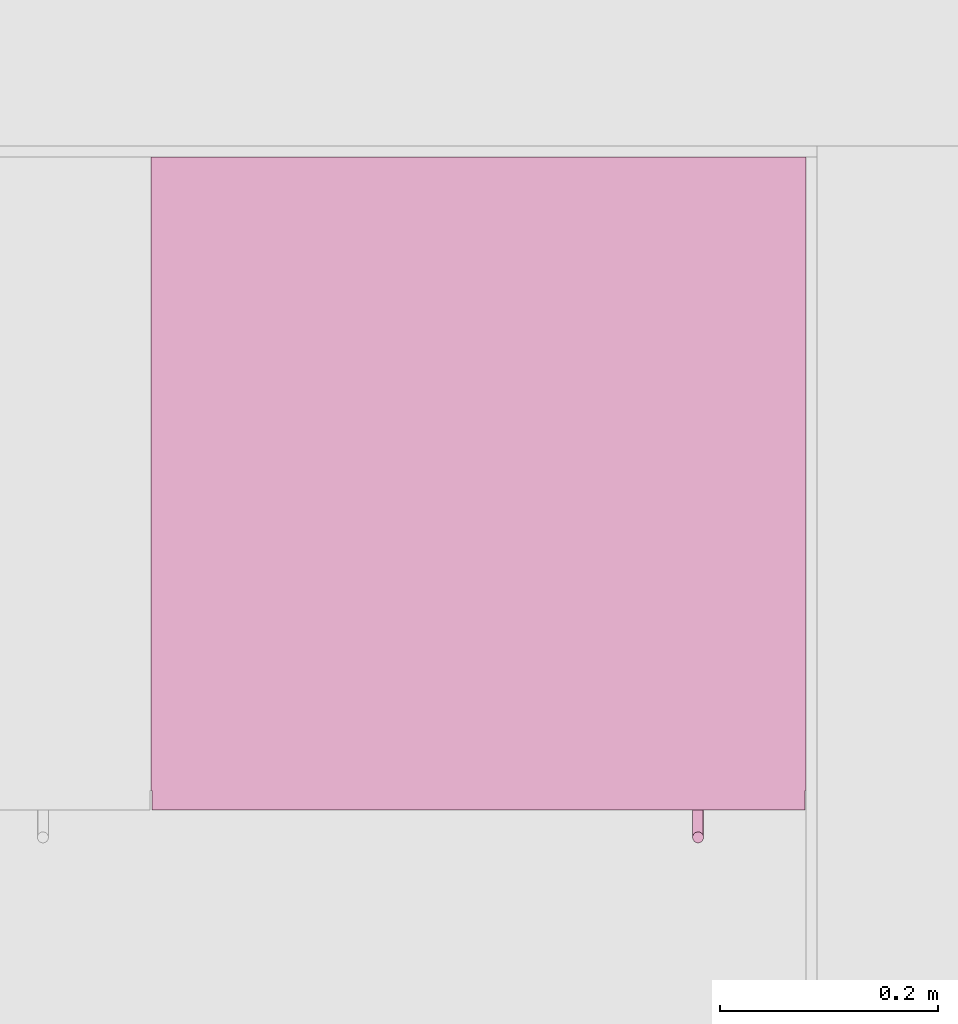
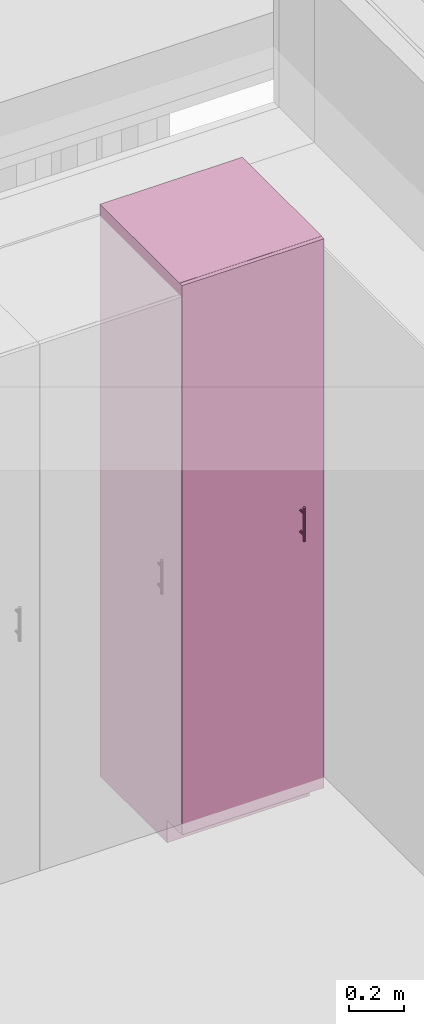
# One storey, part 31 of 34: 1 furniture element.
"""IFC4 building model written with IfcOpenShell, lengths in millimetres."""

from ifc_helpers import new_model, entity, si_unit, converted_unit, derived_unit, direction, frame, origin_with_axes, place, context, subcontext, project, spatial, polygons, source, transform, mapped, type_object, element, save


model = new_model("IFC4")

# Units and contexts
model_context = context("Model", 3, precision=0.01, world=origin_with_axes(), true_north=direction((0.0, 1.0)))
body_context = subcontext(model_context, "Body", "Model", "MODEL_VIEW")
ifc_project = project(units=[si_unit("LENGTHUNIT", "METRE", prefix="MILLI"), si_unit("AREAUNIT", "SQUARE_METRE"), si_unit("VOLUMEUNIT", "CUBIC_METRE"), converted_unit("PLANEANGLEUNIT", "DEGREE", entity("IfcPlaneAngleMeasure", 0.0174532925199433), si_unit("PLANEANGLEUNIT", "RADIAN"), dimensions=[0, 0, 0, 0, 0, 0, 0]), converted_unit("TIMEUNIT", "Year", entity("IfcTimeMeasure", 31557600.0), si_unit("TIMEUNIT", "SECOND"), dimensions=[0, 0, 1, 0, 0, 0, 0]), si_unit("MASSUNIT", "GRAM", prefix="KILO"), si_unit("THERMODYNAMICTEMPERATUREUNIT", "DEGREE_CELSIUS"), si_unit("LUMINOUSINTENSITYUNIT", "LUMEN"), si_unit("ENERGYUNIT", "JOULE", prefix="MEGA"), derived_unit("THERMALCONDUCTANCEUNIT", [(si_unit("POWERUNIT", "WATT"), 1), (si_unit("LENGTHUNIT", "METRE"), -1), (si_unit("THERMODYNAMICTEMPERATUREUNIT", "KELVIN"), -1)]), derived_unit("SPECIFICHEATCAPACITYUNIT", [(si_unit("ENERGYUNIT", "JOULE"), 1), (si_unit("MASSUNIT", "GRAM", prefix="KILO"), -1), (si_unit("THERMODYNAMICTEMPERATUREUNIT", "KELVIN"), -1)]), derived_unit("MASSDENSITYUNIT", [(si_unit("MASSUNIT", "GRAM", prefix="KILO"), 1), (si_unit("VOLUMEUNIT", "CUBIC_METRE"), -1)])], contexts=[model_context])

# Site, building, storey
site_placement = place(None, origin_with_axes())
site = spatial("IfcSite", under=ifc_project, at=site_placement, Name="Gelände", CompositionType="ELEMENT")
building_placement = place(site_placement, origin_with_axes())
building = spatial("IfcBuilding", under=site, at=building_placement, Name="Gebäude", CompositionType="ELEMENT")
storey_placement = place(building_placement, frame((0.0, 0.0, 5799.999999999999), z_axis=(0.0, 0.0, 1.0), x_axis=(1.0, 0.0, 0.0)))
storey = spatial("IfcBuildingStorey", under=building, at=storey_placement, Name="2.OG", CompositionType="ELEMENT", Elevation=5800.0)

# Furniture
furniture_type = type_object("IfcFurnitureType", Name="Stehender Schrank Block 27", AssemblyPlace="NOTDEFINED", PredefinedType="NOTDEFINED")
shared_shape = source(origin_with_axes(), body_context, "Body", "Tessellation", [
    polygons([(501.8682408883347, -597.9999999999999, 1377.799012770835), (502.7101007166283, -597.9999999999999, 1377.573437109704), (503.4999999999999, -597.9999999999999, 1377.205101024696), (504.2139380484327, -597.9999999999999, 1376.705196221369), (504.8302222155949, -597.9999999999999, 1376.088912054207), (505.3301270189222, -597.9999999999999, 1375.374974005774), (505.6984631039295, -597.9999999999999, 1374.585074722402), (505.924038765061, -597.9999999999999, 1373.743214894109), (506.0, -597.9999999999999, 1372.874974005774), (505.924038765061, -597.9999999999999, 1372.00673311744), (505.6984631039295, -597.9999999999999, 1371.164873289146), (505.3301270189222, -597.9999999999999, 1370.374974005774), (504.8302222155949, -597.9999999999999, 1369.661035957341), (504.2139380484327, -597.9999999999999, 1369.044751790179), (503.4999999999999, -597.9999999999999, 1368.544846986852), (502.7101007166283, -597.9999999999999, 1368.176510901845), (501.8682408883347, -597.9999999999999, 1367.950935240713), (501.0, -597.9999999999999, 1367.874974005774), (500.1317591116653, -597.9999999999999, 1367.950935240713), (499.2898992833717, -597.9999999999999, 1368.176510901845), (498.5, -597.9999999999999, 1368.544846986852), (497.7860619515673, -597.9999999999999, 1369.044751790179), (497.1697777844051, -597.9999999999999, 1369.661035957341), (496.6698729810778, -597.9999999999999, 1370.374974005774), (496.3015368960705, -597.9999999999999, 1371.164873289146), (496.075961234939, -597.9999999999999, 1372.00673311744), (496.0, -597.9999999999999, 1372.874974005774), (496.075961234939, -597.9999999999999, 1373.743214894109), (496.3015368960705, -597.9999999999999, 1374.585074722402), (496.6698729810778, -597.9999999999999, 1375.374974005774), (497.1697777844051, -597.9999999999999, 1376.088912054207), (497.7860619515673, -597.9999999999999, 1376.705196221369), (498.5, -597.9999999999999, 1377.205101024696), (499.2898992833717, -597.9999999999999, 1377.573437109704), (500.1317591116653, -597.9999999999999, 1377.799012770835), (501.0, -597.9999999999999, 1377.874974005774), (501.8682408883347, -622.9999999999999, 1377.799012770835), (502.7101007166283, -622.9999999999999, 1377.573437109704), (503.4999999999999, -622.9999999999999, 1377.205101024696), (504.2139380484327, -622.9999999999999, 1376.705196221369), (504.8302222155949, -622.9999999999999, 1376.088912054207), (505.3301270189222, -622.9999999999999, 1375.374974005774), (505.6984631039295, -622.9999999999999, 1374.585074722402), (505.924038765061, -622.9999999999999, 1373.743214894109), (506.0, -622.9999999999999, 1372.874974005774), (505.924038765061, -622.9999999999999, 1372.00673311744), (505.6984631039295, -622.9999999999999, 1371.164873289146), (505.3301270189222, -622.9999999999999, 1370.374974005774), (504.8302222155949, -622.9999999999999, 1369.661035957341), (504.2139380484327, -622.9999999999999, 1369.044751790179), (503.4999999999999, -622.9999999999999, 1368.544846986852), (502.7101007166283, -622.9999999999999, 1368.176510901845), (501.8682408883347, -622.9999999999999, 1367.950935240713), (501.0, -622.9999999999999, 1367.874974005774), (500.1317591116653, -622.9999999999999, 1367.950935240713), (499.2898992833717, -622.9999999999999, 1368.176510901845), (498.5, -622.9999999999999, 1368.544846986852), (497.7860619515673, -622.9999999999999, 1369.044751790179), (497.1697777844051, -622.9999999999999, 1369.661035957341), (496.6698729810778, -622.9999999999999, 1370.374974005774), (496.3015368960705, -622.9999999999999, 1371.164873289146), (496.075961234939, -622.9999999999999, 1372.00673311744), (496.0, -622.9999999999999, 1372.874974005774), (496.075961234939, -622.9999999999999, 1373.743214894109), (496.3015368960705, -622.9999999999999, 1374.585074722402), (496.6698729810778, -622.9999999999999, 1375.374974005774), (497.1697777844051, -622.9999999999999, 1376.088912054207), (497.7860619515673, -622.9999999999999, 1376.705196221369), (498.5, -622.9999999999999, 1377.205101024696), (499.2898992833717, -622.9999999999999, 1377.573437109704), (500.1317591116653, -622.9999999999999, 1377.799012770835), (501.0, -622.9999999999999, 1377.874974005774)], [[[1, 2, 3, 4, 5, 6, 7, 8, 9, 10, 11, 12, 13, 14, 15, 16, 17, 18, 19, 20, 21, 22, 23, 24, 25, 26, 27, 28, 29, 30, 31, 32, 33, 34, 35, 36]], [[2, 1, 37, 38]], [[3, 2, 38, 39]], [[4, 3, 39, 40]], [[5, 4, 40, 41]], [[6, 5, 41, 42]], [[7, 6, 42, 43]], [[8, 7, 43, 44]], [[9, 8, 44, 45]], [[10, 9, 45, 46]], [[11, 10, 46, 47]], [[12, 11, 47, 48]], [[13, 12, 48, 49]], [[14, 13, 49, 50]], [[15, 14, 50, 51]], [[16, 15, 51, 52]], [[17, 16, 52, 53]], [[18, 17, 53, 54]], [[19, 18, 54, 55]], [[20, 19, 55, 56]], [[21, 20, 56, 57]], [[22, 21, 57, 58]], [[23, 22, 58, 59]], [[24, 23, 59, 60]], [[25, 24, 60, 61]], [[26, 25, 61, 62]], [[27, 26, 62, 63]], [[28, 27, 63, 64]], [[29, 28, 64, 65]], [[30, 29, 65, 66]], [[31, 30, 66, 67]], [[32, 31, 67, 68]], [[33, 32, 68, 69]], [[34, 33, 69, 70]], [[35, 34, 70, 71]], [[36, 35, 71, 72]], [[1, 36, 72, 37]], [[37, 72, 71, 70, 69, 68, 67, 66, 65, 64, 63, 62, 61, 60, 59, 58, 57, 56, 55, 54, 53, 52, 51, 50, 49, 48, 47, 46, 45, 44, 43, 42, 41, 40, 39, 38]]], closed=True),
    polygons([(501.8682408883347, -597.9999999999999, 1274.200935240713), (501.0, -597.9999999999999, 1274.124974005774), (500.1317591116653, -597.9999999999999, 1274.200935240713), (499.2898992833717, -597.9999999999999, 1274.426510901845), (498.5, -597.9999999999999, 1274.794846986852), (497.7860619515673, -597.9999999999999, 1275.294751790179), (497.1697777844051, -597.9999999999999, 1275.911035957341), (496.6698729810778, -597.9999999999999, 1276.624974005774), (496.3015368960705, -597.9999999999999, 1277.414873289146), (496.075961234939, -597.9999999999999, 1278.25673311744), (496.0, -597.9999999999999, 1279.124974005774), (496.075961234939, -597.9999999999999, 1279.993214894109), (496.3015368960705, -597.9999999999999, 1280.835074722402), (496.6698729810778, -597.9999999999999, 1281.624974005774), (497.1697777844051, -597.9999999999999, 1282.338912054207), (497.7860619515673, -597.9999999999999, 1282.955196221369), (498.5, -597.9999999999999, 1283.455101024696), (499.2898992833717, -597.9999999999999, 1283.823437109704), (500.1317591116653, -597.9999999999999, 1284.049012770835), (501.0, -597.9999999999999, 1284.124974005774), (501.8682408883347, -597.9999999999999, 1284.049012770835), (502.7101007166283, -597.9999999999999, 1283.823437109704), (503.4999999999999, -597.9999999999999, 1283.455101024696), (504.2139380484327, -597.9999999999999, 1282.955196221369), (504.8302222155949, -597.9999999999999, 1282.338912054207), (505.3301270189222, -597.9999999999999, 1281.624974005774), (505.6984631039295, -597.9999999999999, 1280.835074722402), (505.924038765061, -597.9999999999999, 1279.993214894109), (506.0, -597.9999999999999, 1279.124974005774), (505.924038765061, -597.9999999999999, 1278.25673311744), (505.6984631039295, -597.9999999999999, 1277.414873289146), (505.3301270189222, -597.9999999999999, 1276.624974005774), (504.8302222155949, -597.9999999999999, 1275.911035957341), (504.2139380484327, -597.9999999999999, 1275.294751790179), (503.4999999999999, -597.9999999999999, 1274.794846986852), (502.7101007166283, -597.9999999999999, 1274.426510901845), (501.8682408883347, -622.9999999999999, 1274.200935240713), (501.0, -622.9999999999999, 1274.124974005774), (500.1317591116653, -622.9999999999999, 1274.200935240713), (499.2898992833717, -622.9999999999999, 1274.426510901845), (498.5, -622.9999999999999, 1274.794846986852), (497.7860619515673, -622.9999999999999, 1275.294751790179), (497.1697777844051, -622.9999999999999, 1275.911035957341), (496.6698729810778, -622.9999999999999, 1276.624974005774), (496.3015368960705, -622.9999999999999, 1277.414873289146), (496.075961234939, -622.9999999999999, 1278.25673311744), (496.0, -622.9999999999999, 1279.124974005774), (496.075961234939, -622.9999999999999, 1279.993214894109), (496.3015368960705, -622.9999999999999, 1280.835074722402), (496.6698729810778, -622.9999999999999, 1281.624974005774), (497.1697777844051, -622.9999999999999, 1282.338912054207), (497.7860619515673, -622.9999999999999, 1282.955196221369), (498.5, -622.9999999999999, 1283.455101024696), (499.2898992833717, -622.9999999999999, 1283.823437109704), (500.1317591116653, -622.9999999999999, 1284.049012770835), (501.0, -622.9999999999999, 1284.124974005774), (501.8682408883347, -622.9999999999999, 1284.049012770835), (502.7101007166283, -622.9999999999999, 1283.823437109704), (503.4999999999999, -622.9999999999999, 1283.455101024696), (504.2139380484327, -622.9999999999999, 1282.955196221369), (504.8302222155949, -622.9999999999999, 1282.338912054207), (505.3301270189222, -622.9999999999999, 1281.624974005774), (505.6984631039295, -622.9999999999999, 1280.835074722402), (505.924038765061, -622.9999999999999, 1279.993214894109), (506.0, -622.9999999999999, 1279.124974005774), (505.924038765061, -622.9999999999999, 1278.25673311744), (505.6984631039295, -622.9999999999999, 1277.414873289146), (505.3301270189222, -622.9999999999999, 1276.624974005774), (504.8302222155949, -622.9999999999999, 1275.911035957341), (504.2139380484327, -622.9999999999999, 1275.294751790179), (503.4999999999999, -622.9999999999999, 1274.794846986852), (502.7101007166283, -622.9999999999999, 1274.426510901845)], [[[1, 2, 3, 4, 5, 6, 7, 8, 9, 10, 11, 12, 13, 14, 15, 16, 17, 18, 19, 20, 21, 22, 23, 24, 25, 26, 27, 28, 29, 30, 31, 32, 33, 34, 35, 36]], [[1, 37, 38, 2]], [[2, 38, 39, 3]], [[3, 39, 40, 4]], [[4, 40, 41, 5]], [[5, 41, 42, 6]], [[6, 42, 43, 7]], [[7, 43, 44, 8]], [[8, 44, 45, 9]], [[9, 45, 46, 10]], [[10, 46, 47, 11]], [[11, 47, 48, 12]], [[12, 48, 49, 13]], [[13, 49, 50, 14]], [[14, 50, 51, 15]], [[15, 51, 52, 16]], [[16, 52, 53, 17]], [[17, 53, 54, 18]], [[18, 54, 55, 19]], [[19, 55, 56, 20]], [[20, 56, 57, 21]], [[21, 57, 58, 22]], [[22, 58, 59, 23]], [[23, 59, 60, 24]], [[24, 60, 61, 25]], [[25, 61, 62, 26]], [[26, 62, 63, 27]], [[27, 63, 64, 28]], [[28, 64, 65, 29]], [[29, 65, 66, 30]], [[30, 66, 67, 31]], [[31, 67, 68, 32]], [[32, 68, 69, 33]], [[33, 69, 70, 34]], [[34, 70, 71, 35]], [[35, 71, 72, 36]], [[36, 72, 37, 1]], [[37, 72, 71, 70, 69, 68, 67, 66, 65, 64, 63, 62, 61, 60, 59, 58, 57, 56, 55, 54, 53, 52, 51, 50, 49, 48, 47, 46, 45, 44, 43, 42, 41, 40, 39, 38]]], closed=True),
    polygons([(501.8682408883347, -618.0759612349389, 1250.999974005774), (502.7101007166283, -618.3015368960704, 1250.999974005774), (503.4999999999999, -618.6698729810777, 1250.999974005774), (504.2139380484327, -619.1697777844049, 1250.999974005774), (504.8302222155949, -619.7860619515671, 1250.999974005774), (505.3301270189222, -620.4999999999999, 1250.999974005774), (505.6984631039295, -621.2898992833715, 1250.999974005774), (505.924038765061, -622.1317591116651, 1250.999974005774), (506.0, -622.9999999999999, 1250.999974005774), (505.924038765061, -623.8682408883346, 1250.999974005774), (505.6984631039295, -624.7101007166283, 1250.999974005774), (505.3301270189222, -625.4999999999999, 1250.999974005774), (504.8302222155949, -626.2139380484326, 1250.999974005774), (504.2139380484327, -626.8302222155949, 1250.999974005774), (503.4999999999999, -627.3301270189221, 1250.999974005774), (502.7101007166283, -627.6984631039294, 1250.999974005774), (501.8682408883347, -627.924038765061, 1250.999974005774), (501.0, -627.9999999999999, 1250.999974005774), (500.1317591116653, -627.924038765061, 1250.999974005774), (499.2898992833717, -627.6984631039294, 1250.999974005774), (498.5, -627.3301270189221, 1250.999974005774), (497.7860619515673, -626.8302222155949, 1250.999974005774), (497.1697777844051, -626.2139380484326, 1250.999974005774), (496.6698729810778, -625.4999999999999, 1250.999974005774), (496.3015368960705, -624.7101007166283, 1250.999974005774), (496.075961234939, -623.8682408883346, 1250.999974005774), (496.0, -622.9999999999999, 1250.999974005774), (496.075961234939, -622.1317591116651, 1250.999974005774), (496.3015368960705, -621.2898992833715, 1250.999974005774), (496.6698729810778, -620.4999999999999, 1250.999974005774), (497.1697777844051, -619.7860619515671, 1250.999974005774), (497.7860619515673, -619.1697777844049, 1250.999974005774), (498.5, -618.6698729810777, 1250.999974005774), (499.2898992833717, -618.3015368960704, 1250.999974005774), (500.1317591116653, -618.0759612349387, 1250.999974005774), (501.0, -617.9999999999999, 1250.999974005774), (501.8682408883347, -618.0759612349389, 1400.999974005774), (502.7101007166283, -618.3015368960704, 1400.999974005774), (503.5000000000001, -618.6698729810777, 1400.999974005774), (504.2139380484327, -619.1697777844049, 1400.999974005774), (504.8302222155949, -619.7860619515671, 1400.999974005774), (505.3301270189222, -620.4999999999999, 1400.999974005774), (505.6984631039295, -621.2898992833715, 1400.999974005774), (505.9240387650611, -622.1317591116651, 1400.999974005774), (506.0, -622.9999999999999, 1400.999974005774), (505.9240387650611, -623.8682408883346, 1400.999974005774), (505.6984631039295, -624.7101007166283, 1400.999974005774), (505.3301270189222, -625.4999999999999, 1400.999974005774), (504.8302222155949, -626.2139380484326, 1400.999974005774), (504.2139380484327, -626.8302222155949, 1400.999974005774), (503.5000000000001, -627.3301270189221, 1400.999974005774), (502.7101007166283, -627.6984631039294, 1400.999974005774), (501.8682408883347, -627.924038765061, 1400.999974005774), (501.0, -627.9999999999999, 1400.999974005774), (500.1317591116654, -627.924038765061, 1400.999974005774), (499.2898992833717, -627.6984631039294, 1400.999974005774), (498.5, -627.3301270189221, 1400.999974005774), (497.7860619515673, -626.8302222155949, 1400.999974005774), (497.1697777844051, -626.2139380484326, 1400.999974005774), (496.6698729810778, -625.4999999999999, 1400.999974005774), (496.3015368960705, -624.7101007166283, 1400.999974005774), (496.075961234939, -623.8682408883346, 1400.999974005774), (496.0, -622.9999999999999, 1400.999974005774), (496.075961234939, -622.1317591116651, 1400.999974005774), (496.3015368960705, -621.2898992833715, 1400.999974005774), (496.6698729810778, -620.4999999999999, 1400.999974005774), (497.1697777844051, -619.7860619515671, 1400.999974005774), (497.7860619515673, -619.1697777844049, 1400.999974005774), (498.5, -618.6698729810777, 1400.999974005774), (499.2898992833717, -618.3015368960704, 1400.999974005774), (500.1317591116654, -618.0759612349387, 1400.999974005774), (501.0, -617.9999999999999, 1400.999974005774)], [[[1, 2, 3, 4, 5, 6, 7, 8, 9, 10, 11, 12, 13, 14, 15, 16, 17, 18, 19, 20, 21, 22, 23, 24, 25, 26, 27, 28, 29, 30, 31, 32, 33, 34, 35, 36]], [[2, 1, 37, 38]], [[3, 2, 38, 39]], [[4, 3, 39, 40]], [[5, 4, 40, 41]], [[6, 5, 41, 42]], [[7, 6, 42, 43]], [[8, 7, 43, 44]], [[9, 8, 44, 45]], [[10, 9, 45, 46]], [[11, 10, 46, 47]], [[12, 11, 47, 48]], [[13, 12, 48, 49]], [[14, 13, 49, 50]], [[15, 14, 50, 51]], [[16, 15, 51, 52]], [[17, 16, 52, 53]], [[18, 17, 53, 54]], [[19, 18, 54, 55]], [[20, 19, 55, 56]], [[21, 20, 56, 57]], [[22, 21, 57, 58]], [[23, 22, 58, 59]], [[24, 23, 59, 60]], [[25, 24, 60, 61]], [[26, 25, 61, 62]], [[27, 26, 62, 63]], [[28, 27, 63, 64]], [[29, 28, 64, 65]], [[30, 29, 65, 66]], [[31, 30, 66, 67]], [[32, 31, 67, 68]], [[33, 32, 68, 69]], [[34, 33, 69, 70]], [[35, 34, 70, 71]], [[36, 35, 71, 72]], [[1, 36, 72, 37]], [[37, 72, 71, 70, 69, 68, 67, 66, 65, 64, 63, 62, 61, 60, 59, 58, 57, 56, 55, 54, 53, 52, 51, 50, 49, 48, 47, 46, 45, 44, 43, 42, 41, 40, 39, 38]]], closed=True),
    polygons([(1.0, -580.0, 101.0), (599.0, -580.0, 101.0), (599.0, -598.0, 101.0), (1.0, -598.0, 101.0), (1.0, -579.9999999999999, 2548.999948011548), (599.0, -579.9999999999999, 2548.999948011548), (599.0, -597.9999999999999, 2548.999948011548), (1.0, -597.9999999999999, 2548.999948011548)], [[[1, 2, 3, 4]], [[1, 5, 6, 2]], [[2, 6, 7, 3]], [[4, 3, 7, 8]], [[5, 1, 4, 8]], [[6, 5, 8, 7]]], closed=True),
    polygons([(18.0, -580.0, 100.0), (582.0, -580.0, 100.0), (582.0, -580.0, 118.0), (18.0, -580.0, 118.0), (18.0, 0.0, 100.0), (582.0, 0.0, 100.0), (582.0, 0.0, 118.0), (18.0, 0.0, 118.0)], [[[1, 2, 3, 4]], [[1, 5, 6, 2]], [[2, 6, 7, 3]], [[4, 3, 7, 8]], [[5, 1, 4, 8]], [[6, 5, 8, 7]]], closed=True),
    polygons([(18.0, -580.0, 2531.999948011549), (582.0, -580.0, 2531.999948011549), (582.0, -580.0, 2549.999948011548), (18.0, -580.0, 2549.999948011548), (18.0, 0.0, 2531.999948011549), (582.0, 0.0, 2531.999948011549), (582.0, 0.0, 2549.999948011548), (18.0, 0.0, 2549.999948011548)], [[[1, 2, 3, 4]], [[1, 5, 6, 2]], [[2, 6, 7, 3]], [[4, 3, 7, 8]], [[5, 1, 4, 8]], [[6, 5, 8, 7]]], closed=True),
    polygons([(0.0, 0.0, 100.0), (0.0, -580.0, 100.0), (0.0, -580.0, 2549.999948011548), (0.0, 0.0, 2549.999948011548), (18.0, 0.0, 100.0), (18.0, -580.0, 100.0), (18.0, -580.0, 2549.999948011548), (18.0, 0.0, 2549.999948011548)], [[[1, 2, 3, 4]], [[1, 5, 6, 2]], [[2, 6, 7, 3]], [[4, 3, 7, 8]], [[5, 1, 4, 8]], [[6, 5, 8, 7]]], closed=True),
    polygons([(600.0, -580.0, 100.0), (600.0, 0.0, 100.0), (600.0, 0.0, 2549.999948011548), (600.0, -580.0, 2549.999948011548), (582.0, -580.0, 100.0), (582.0, 0.0, 100.0), (582.0, 0.0, 2549.999948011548), (582.0, -580.0, 2549.999948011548)], [[[1, 2, 3, 4]], [[1, 5, 6, 2]], [[2, 6, 7, 3]], [[4, 3, 7, 8]], [[5, 1, 4, 8]], [[6, 5, 8, 7]]], closed=True),
    polygons([(582.0, -9.0, 118.0), (18.00000000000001, -9.0, 118.0), (18.00000000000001, -9.0, 2531.999948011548), (582.0, -9.0, 2531.999948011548), (582.0, -18.0, 118.0), (18.00000000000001, -18.0, 118.0), (18.00000000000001, -18.0, 2531.999948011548), (582.0, -18.0, 2531.999948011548)], [[[1, 2, 3, 4]], [[1, 5, 6, 2]], [[2, 6, 7, 3]], [[4, 3, 7, 8]], [[5, 1, 4, 8]], [[6, 5, 8, 7]]], closed=True),
    polygons([(0.0, -490.0, 0.0), (600.0, -490.0, 0.0), (600.0, -490.0, 100.0), (0.0, -490.0, 100.0), (0.0, 0.0, 0.0), (600.0, 0.0, 0.0), (600.0, 0.0, 100.0), (0.0, 0.0, 100.0)], [[[1, 2, 3, 4]], [[1, 5, 6, 2]], [[2, 6, 7, 3]], [[4, 3, 7, 8]], [[5, 1, 4, 8]], [[6, 5, 8, 7]]], closed=True),
])
furniture_placement = place(storey_placement, frame((17009.99744477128, 27937.59728131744, 150.0000000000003), z_axis=(0.0, 0.0, 1.0), x_axis=(1.0, 0.0, 0.0)))
element("IfcFurniture", 1, at=furniture_placement, inside=storey, type_object=furniture_type, Name="Möbel-021", PredefinedType="NOTDEFINED", context=body_context, shape_type="MappedRepresentation", body=[
    mapped(shared_shape, transform((0.0, 0.0, 0.0))),
])

save(model, "model.ifc")
